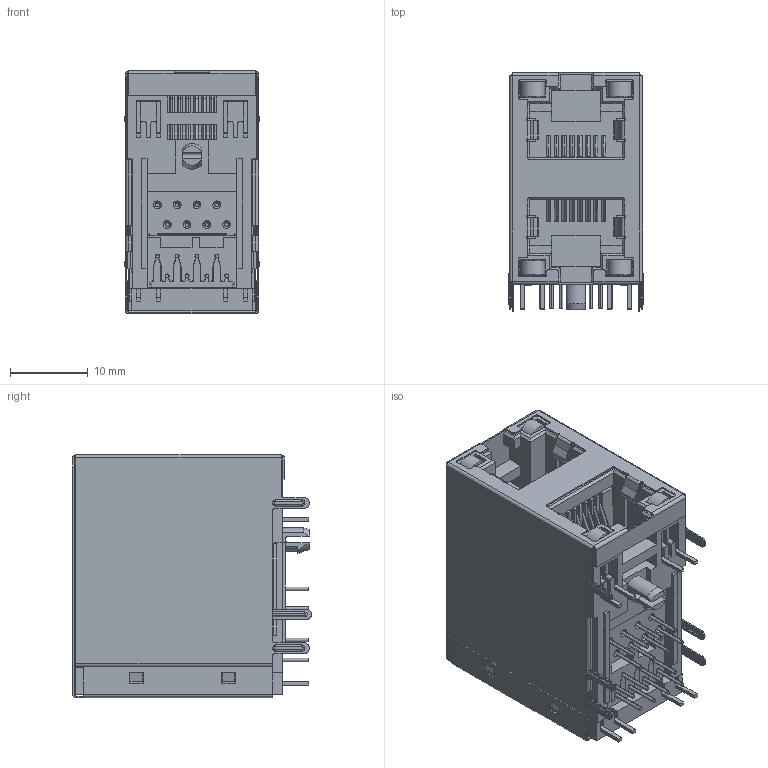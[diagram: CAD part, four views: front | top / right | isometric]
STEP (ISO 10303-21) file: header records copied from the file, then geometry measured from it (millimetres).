
FILE_DESCRIPTION((''),'2;1');
FILE_NAME('ASM0001_ASM','2024-09-06T14:42:57',('HQW'),(''),'CREO PARAMETRIC BY PTC INC, 2024153','CREO PARAMETRIC BY PTC INC, 2024153','');
FILE_SCHEMA(('CONFIG_CONTROL_DESIGN','GEOMETRIC_VALIDATION_PROPERTIES_MIM'));
Length unit declared in the file: millimetre
Products named in the file (12): 5921-LED-2X1-00; 5921-LED-2X1-000; 5921-LED-2XN-1000; 5921-LED-2XN-PIN0001; 5921-LED-2XN-000_ASM; 5921-LED-2XN-2000; 5921-LED-2XN-PIN0002; 5921-LED-2X1-0003; ASM0001_ASM
Assembly tree (11 placements, depth 3):
  ASM0001_ASM
    5921-LED-2X1-00
    5921-LED-2X1-000
    5921-LED-2XN-000_ASM
      5921-LED-2XN-1000
      5921-LED-2XN-PIN0001
    5921-LED-2XN-000_ASM
      5921-LED-2XN-2000
      5921-LED-2XN-1000
      5921-LED-2XN-PIN0002
    5921-LED-2X1-0003
    5921-LED-2X1-00
Bounding box: 17.33 x 30.73 x 31.29 mm (x, y, z)
Volume: 8636.5 mm3; surface area: 20295.7 mm2
Topology: 25 solids, 25 shells, 1885 faces, 4926 edges, 3068 vertices
Faces by surface type: plane 1257, cylinder 458, torus 104, cone 50, bspline 16
Entity records: 58709 total; most frequent: CARTESIAN_POINT 11281, ORIENTED_EDGE 9852, DIRECTION 9644, EDGE_CURVE 4926, VECTOR 3798, LINE 3798, VERTEX_POINT 3068, AXIS2_PLACEMENT_3D 2923
